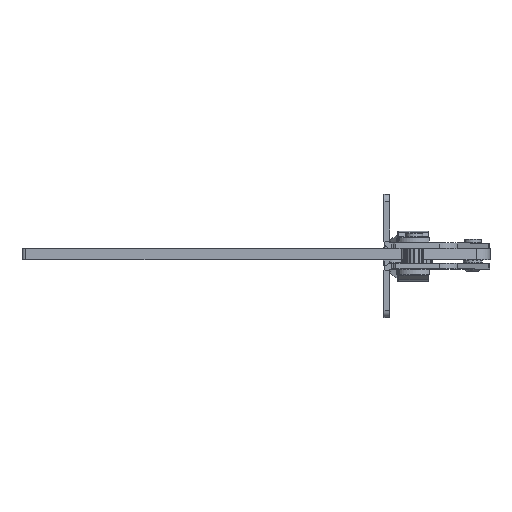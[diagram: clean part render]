
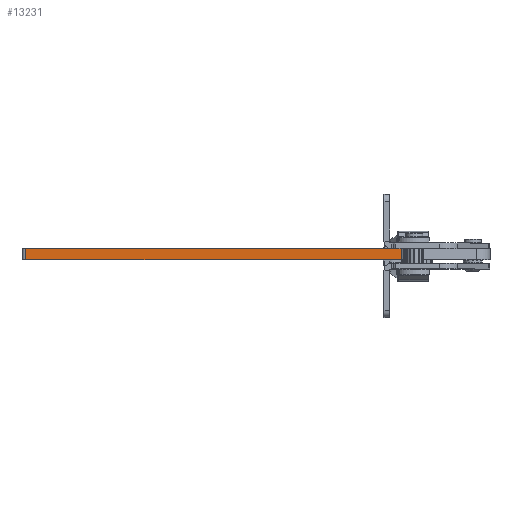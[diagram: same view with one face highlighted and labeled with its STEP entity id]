
A CAD part, top view. The second image highlights one B-rep face of the part: STEP entity #13231.
In plain terms, the highlighted planar face has unit normal (0, 0, 1) as drawn and (0, -1, 0) by its records, which use the part's own axes.
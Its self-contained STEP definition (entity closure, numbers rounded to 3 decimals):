
#108 = VECTOR ( 'NONE', #2329, 1000. ) ;
#270 = ORIENTED_EDGE ( 'NONE', *, *, #15971, .T. ) ;
#275 = LINE ( 'NONE', #21881, #17445 ) ;
#301 = LINE ( 'NONE', #1929, #8363 ) ;
#428 = CARTESIAN_POINT ( 'NONE',  ( -193.173, -10., -6. ) ) ;
#461 = CARTESIAN_POINT ( 'NONE',  ( -143.673, -10., -5.7 ) ) ;
#632 = LINE ( 'NONE', #14942, #18217 ) ;
#800 = VERTEX_POINT ( 'NONE', #428 ) ;
#975 = EDGE_CURVE ( 'NONE', #4399, #800, #10450, .T. ) ;
#1119 = PLANE ( 'NONE',  #16660 ) ;
#1929 = CARTESIAN_POINT ( 'NONE',  ( -39., -10., -6. ) ) ;
#2329 = DIRECTION ( 'NONE',  ( 1., 0., 0. ) ) ;
#2452 = VERTEX_POINT ( 'NONE', #19873 ) ;
#2639 = VECTOR ( 'NONE', #22835, 1000. ) ;
#2794 = VECTOR ( 'NONE', #4946, 1000. ) ;
#2898 = FACE_OUTER_BOUND ( 'NONE', #9528, .T. ) ;
#3069 = ORIENTED_EDGE ( 'NONE', *, *, #3821, .F. ) ;
#3135 = CARTESIAN_POINT ( 'NONE',  ( -193.673, -10., -5.7 ) ) ;
#3463 = CARTESIAN_POINT ( 'NONE',  ( -193.173, -10., -5.7 ) ) ;
#3507 = VERTEX_POINT ( 'NONE', #461 ) ;
#3575 = ORIENTED_EDGE ( 'NONE', *, *, #15392, .T. ) ;
#3699 = VERTEX_POINT ( 'NONE', #7312 ) ;
#3821 = EDGE_CURVE ( 'NONE', #3507, #11359, #13783, .T. ) ;
#4295 = DIRECTION ( 'NONE',  ( -1., 0., 0. ) ) ;
#4399 = VERTEX_POINT ( 'NONE', #14468 ) ;
#4418 = CARTESIAN_POINT ( 'NONE',  ( -193.673, -10., -6. ) ) ;
#4564 = CARTESIAN_POINT ( 'NONE',  ( -39., -10., -6. ) ) ;
#4946 = DIRECTION ( 'NONE',  ( 1., 0., 0. ) ) ;
#5117 = CARTESIAN_POINT ( 'NONE',  ( -143.173, -10., -5.7 ) ) ;
#5153 = CARTESIAN_POINT ( 'NONE',  ( -39., -10., -6. ) ) ;
#5264 = CARTESIAN_POINT ( 'NONE',  ( -193.673, -10., -5.7 ) ) ;
#5973 = EDGE_CURVE ( 'NONE', #8657, #22522, #6885, .T. ) ;
#6297 = VERTEX_POINT ( 'NONE', #6354 ) ;
#6354 = CARTESIAN_POINT ( 'NONE',  ( -39., -10., -6. ) ) ;
#6559 = CARTESIAN_POINT ( 'NONE',  ( -143.673, -10., -6. ) ) ;
#6570 = DIRECTION ( 'NONE',  ( 1., 0., 0. ) ) ;
#6712 = ORIENTED_EDGE ( 'NONE', *, *, #7279, .F. ) ;
#6885 = LINE ( 'NONE', #5117, #2639 ) ;
#7171 = ORIENTED_EDGE ( 'NONE', *, *, #12089, .F. ) ;
#7279 = EDGE_CURVE ( 'NONE', #8657, #3507, #632, .T. ) ;
#7312 = CARTESIAN_POINT ( 'NONE',  ( -241.673, -10., -6. ) ) ;
#7907 = CARTESIAN_POINT ( 'NONE',  ( -143.173, -10., -6. ) ) ;
#8253 = CARTESIAN_POINT ( 'NONE',  ( -39., -10., -6. ) ) ;
#8331 = DIRECTION ( 'NONE',  ( 0., 0., -1. ) ) ;
#8363 = VECTOR ( 'NONE', #8800, 1000. ) ;
#8657 = VERTEX_POINT ( 'NONE', #21238 ) ;
#8692 = CARTESIAN_POINT ( 'NONE',  ( -193.673, -10., -5.7 ) ) ;
#8800 = DIRECTION ( 'NONE',  ( 0., 0., 1. ) ) ;
#9282 = ORIENTED_EDGE ( 'NONE', *, *, #15667, .T. ) ;
#9498 = VECTOR ( 'NONE', #23345, 1000. ) ;
#9528 = EDGE_LOOP ( 'NONE', ( #3069, #6712, #15708, #3575, #270, #9588, #13233, #9282, #17016, #7171, #19962, #22553 ) ) ;
#9588 = ORIENTED_EDGE ( 'NONE', *, *, #20612, .F. ) ;
#9900 = VECTOR ( 'NONE', #6570, 1000. ) ;
#10266 = VERTEX_POINT ( 'NONE', #22379 ) ;
#10450 = LINE ( 'NONE', #3463, #17910 ) ;
#10671 = VECTOR ( 'NONE', #11328, 1000. ) ;
#11328 = DIRECTION ( 'NONE',  ( 1., 0., 0. ) ) ;
#11359 = VERTEX_POINT ( 'NONE', #6559 ) ;
#11887 = DIRECTION ( 'NONE',  ( 0., 0., -1. ) ) ;
#11991 = DIRECTION ( 'NONE',  ( 0., -1., 0. ) ) ;
#12039 = VERTEX_POINT ( 'NONE', #5264 ) ;
#12089 = EDGE_CURVE ( 'NONE', #4399, #12039, #19334, .T. ) ;
#12873 = LINE ( 'NONE', #16304, #10671 ) ;
#13231 = ADVANCED_FACE ( 'NONE', ( #2898 ), #1119, .T. ) ;
#13233 = ORIENTED_EDGE ( 'NONE', *, *, #16452, .T. ) ;
#13781 = LINE ( 'NONE', #8692, #21654 ) ;
#13783 = LINE ( 'NONE', #19010, #15420 ) ;
#13921 = LINE ( 'NONE', #8253, #2794 ) ;
#14020 = VERTEX_POINT ( 'NONE', #4418 ) ;
#14468 = CARTESIAN_POINT ( 'NONE',  ( -193.173, -10., -5.7 ) ) ;
#14810 = DIRECTION ( 'NONE',  ( 0., 0., -1. ) ) ;
#14942 = CARTESIAN_POINT ( 'NONE',  ( -143.673, -10., -5.7 ) ) ;
#15096 = EDGE_CURVE ( 'NONE', #12039, #14020, #13781, .T. ) ;
#15338 = CARTESIAN_POINT ( 'NONE',  ( -39., -10., -6. ) ) ;
#15392 = EDGE_CURVE ( 'NONE', #22522, #6297, #13921, .T. ) ;
#15420 = VECTOR ( 'NONE', #18899, 1000. ) ;
#15667 = EDGE_CURVE ( 'NONE', #3699, #14020, #22415, .T. ) ;
#15708 = ORIENTED_EDGE ( 'NONE', *, *, #5973, .T. ) ;
#15971 = EDGE_CURVE ( 'NONE', #6297, #10266, #301, .T. ) ;
#16304 = CARTESIAN_POINT ( 'NONE',  ( -39., -10., 0. ) ) ;
#16452 = EDGE_CURVE ( 'NONE', #2452, #3699, #275, .T. ) ;
#16660 = AXIS2_PLACEMENT_3D ( 'NONE', #5153, #11991, #8331 ) ;
#17016 = ORIENTED_EDGE ( 'NONE', *, *, #15096, .F. ) ;
#17445 = VECTOR ( 'NONE', #14810, 1000. ) ;
#17546 = DIRECTION ( 'NONE',  ( 0., 0., -1. ) ) ;
#17910 = VECTOR ( 'NONE', #17546, 1000. ) ;
#18217 = VECTOR ( 'NONE', #4295, 1000. ) ;
#18899 = DIRECTION ( 'NONE',  ( 0., 0., -1. ) ) ;
#19010 = CARTESIAN_POINT ( 'NONE',  ( -143.673, -10., -5.7 ) ) ;
#19334 = LINE ( 'NONE', #3135, #9498 ) ;
#19751 = EDGE_CURVE ( 'NONE', #800, #11359, #22986, .T. ) ;
#19873 = CARTESIAN_POINT ( 'NONE',  ( -241.673, -10., 0. ) ) ;
#19962 = ORIENTED_EDGE ( 'NONE', *, *, #975, .T. ) ;
#20612 = EDGE_CURVE ( 'NONE', #2452, #10266, #12873, .T. ) ;
#21238 = CARTESIAN_POINT ( 'NONE',  ( -143.173, -10., -5.7 ) ) ;
#21654 = VECTOR ( 'NONE', #11887, 1000. ) ;
#21881 = CARTESIAN_POINT ( 'NONE',  ( -241.673, -10., -6. ) ) ;
#22379 = CARTESIAN_POINT ( 'NONE',  ( -39., -10., 0. ) ) ;
#22415 = LINE ( 'NONE', #15338, #108 ) ;
#22522 = VERTEX_POINT ( 'NONE', #7907 ) ;
#22553 = ORIENTED_EDGE ( 'NONE', *, *, #19751, .T. ) ;
#22835 = DIRECTION ( 'NONE',  ( 0., 0., -1. ) ) ;
#22986 = LINE ( 'NONE', #4564, #9900 ) ;
#23345 = DIRECTION ( 'NONE',  ( -1., 0., 0. ) ) ;
